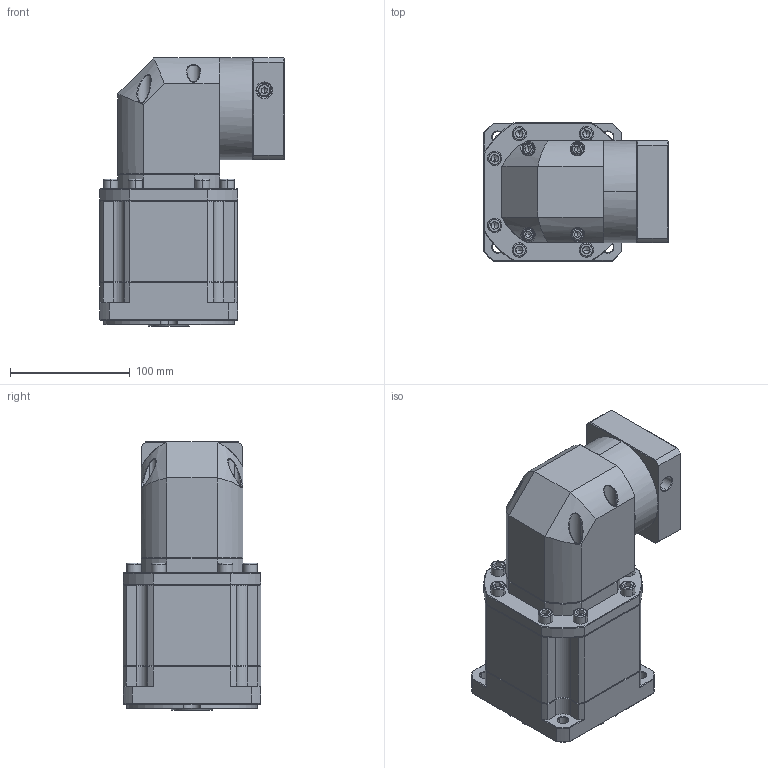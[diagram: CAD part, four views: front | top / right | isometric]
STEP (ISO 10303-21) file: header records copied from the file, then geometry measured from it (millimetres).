
FILE_DESCRIPTION (( 'STEP AP214' ), '1' );
FILE_NAME ('ZBR115A-K25-L3-P2-19-80-100-M6.step', '2023-08-26T13:37:45', ( '' ), ( '' ), 'SwSTEP 2.0', 'SolidWorks 2016', '' );
FILE_SCHEMA (( 'AUTOMOTIVE_DESIGN' ));
Length unit declared in the file: millimetre
Products named in the file (1): ZBR115A-K25-L3-P2-19-80-100-M6
Bounding box: 153.6 x 115 x 223.5 mm (x, y, z)
Volume: 2224390.1 mm3; surface area: 187786.5 mm2
Topology: 6 solids, 6 shells, 2546 faces, 6586 edges, 4151 vertices
Faces by surface type: plane 1272, cylinder 446, bspline 442, cone 372, torus 14
Entity records: 131914 total; most frequent: CARTESIAN_POINT 45421, ORIENTED_EDGE 13068, DIRECTION 10553, EDGE_CURVE 6534, VECTOR 4225, LINE 4225, VERTEX_POINT 4151, AXIS2_PLACEMENT_3D 3164
